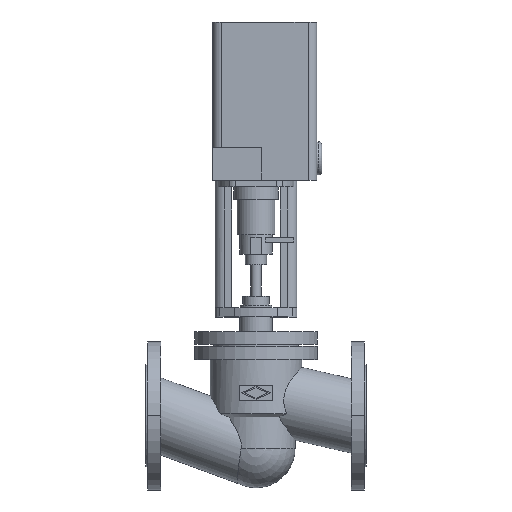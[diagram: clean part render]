
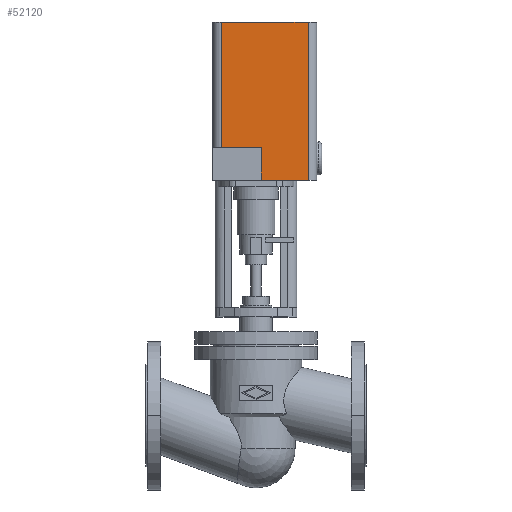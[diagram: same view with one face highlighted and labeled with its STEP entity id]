
A CAD part, top view. The second image highlights one B-rep face of the part: STEP entity #52120.
In plain terms, the highlighted planar face has unit normal (0, 0, 1).
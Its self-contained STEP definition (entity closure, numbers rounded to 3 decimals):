
#43480=CARTESIAN_POINT('',(257.6,625.,89.));
#43490=VERTEX_POINT('',#43480);
#43520=CARTESIAN_POINT('',(120.6,625.,89.));
#43530=DIRECTION('',(-1.,0.,0.));
#43540=VECTOR('',#43530,1.);
#43550=LINE('',#43520,#43540);
#43560=CARTESIAN_POINT('',(120.6,625.,89.));
#43570=VERTEX_POINT('',#43560);
#43580=EDGE_CURVE('',#43490,#43570,#43550,.T.);
#47120=CARTESIAN_POINT('',(183.6,374.,89.));
#47130=VERTEX_POINT('',#47120);
#47180=CARTESIAN_POINT('',(120.6,374.,89.));
#47190=DIRECTION('',(1.,0.,0.));
#47200=VECTOR('',#47190,1.);
#47210=LINE('',#47180,#47200);
#47220=CARTESIAN_POINT('',(257.6,374.,89.));
#47230=VERTEX_POINT('',#47220);
#47240=EDGE_CURVE('',#47130,#47230,#47210,.T.);
#50480=CARTESIAN_POINT('',(257.6,374.,89.));
#50490=DIRECTION('',(0.,-1.,0.));
#50500=VECTOR('',#50490,1.);
#50510=LINE('',#50480,#50500);
#50520=EDGE_CURVE('',#43490,#47230,#50510,.T.);
#50820=CARTESIAN_POINT('',(120.6,426.,89.));
#50830=VERTEX_POINT('',#50820);
#50860=CARTESIAN_POINT('',(216.3,426.,89.));
#50870=DIRECTION('',(1.,0.,0.));
#50880=VECTOR('',#50870,1.);
#50890=LINE('',#50860,#50880);
#50900=CARTESIAN_POINT('',(183.6,426.,89.));
#50910=VERTEX_POINT('',#50900);
#50920=EDGE_CURVE('',#50830,#50910,#50890,.T.);
#51490=CARTESIAN_POINT('',(183.6,374.,89.));
#51500=DIRECTION('',(0.,-1.,0.));
#51510=VECTOR('',#51500,1.);
#51520=LINE('',#51490,#51510);
#51530=EDGE_CURVE('',#50910,#47130,#51520,.T.);
#51890=CARTESIAN_POINT('',(120.6,374.,89.));
#51900=DIRECTION('',(0.,1.,0.));
#51910=VECTOR('',#51900,1.);
#51920=LINE('',#51890,#51910);
#51930=EDGE_CURVE('',#50830,#43570,#51920,.T.);
#51990=CARTESIAN_POINT('',(257.6,374.,89.));
#52000=DIRECTION('',(0.,0.,1.));
#52010=DIRECTION('',(1.,0.,0.));
#52020=AXIS2_PLACEMENT_3D('',#51990,#52000,#52010);
#52030=PLANE('',#52020);
#52040=ORIENTED_EDGE('',*,*,#51930,.F.);
#52050=ORIENTED_EDGE('',*,*,#43580,.T.);
#52060=ORIENTED_EDGE('',*,*,#50520,.F.);
#52070=ORIENTED_EDGE('',*,*,#47240,.T.);
#52080=ORIENTED_EDGE('',*,*,#51530,.T.);
#52090=ORIENTED_EDGE('',*,*,#50920,.T.);
#52100=EDGE_LOOP('',(#52090,#52080,#52070,#52060,#52050,#52040));
#52110=FACE_OUTER_BOUND('',#52100,.T.);
#52120=ADVANCED_FACE('',(#52110),#52030,.T.);
